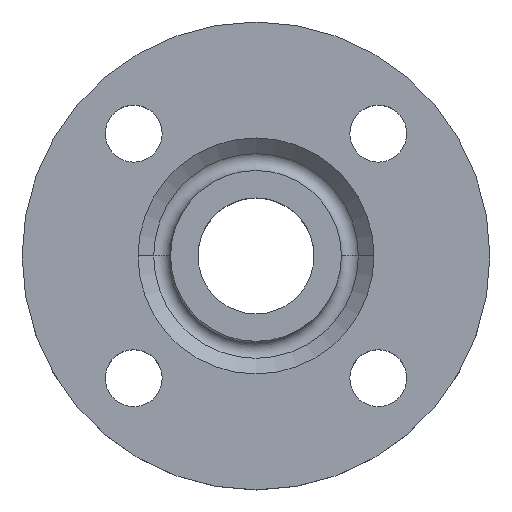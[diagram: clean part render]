
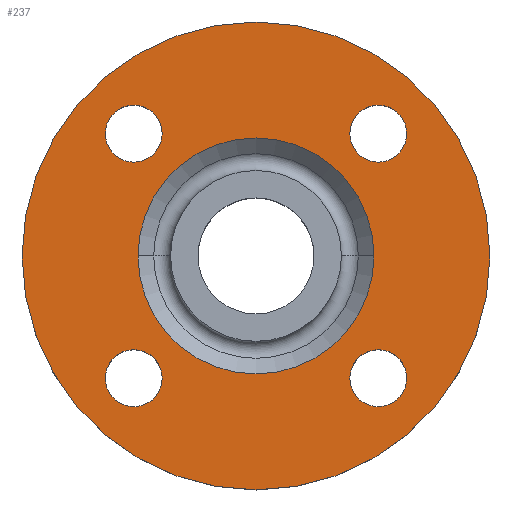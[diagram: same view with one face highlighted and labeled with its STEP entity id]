
A CAD part, top view. The second image highlights one B-rep face of the part: STEP entity #237.
In plain terms, the highlighted planar face has unit normal (0, 0, 1).
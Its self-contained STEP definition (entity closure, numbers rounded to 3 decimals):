
#1 = DIRECTION ( 'NONE',  ( 0., 0., -1. ) ) ;
#2 = DIRECTION ( 'NONE',  ( 1., 0., 0. ) ) ;
#4 = DIRECTION ( 'NONE',  ( 0., 0., -1. ) ) ;
#5 = DIRECTION ( 'NONE',  ( 1., 0., 0. ) ) ;
#6 = CARTESIAN_POINT ( 'NONE',  ( 30.052, 30.052, -2. ) ) ;
#10 = CARTESIAN_POINT ( 'NONE',  ( -30.052, 30.052, -2. ) ) ;
#15 = DIRECTION ( 'NONE',  ( -1., 0., 0. ) ) ;
#16 = EDGE_CURVE ( 'NONE', #605, #704, #350, .T. ) ;
#17 = DIRECTION ( 'NONE',  ( 0., 0., -1. ) ) ;
#24 = CIRCLE ( 'NONE', #138, 7. ) ;
#25 = CARTESIAN_POINT ( 'NONE',  ( 0., 0., -2. ) ) ;
#83 = DIRECTION ( 'NONE',  ( -1., 0., 0. ) ) ;
#84 = DIRECTION ( 'NONE',  ( 0., 0., -1. ) ) ;
#86 = CARTESIAN_POINT ( 'NONE',  ( 0., 0., -2. ) ) ;
#110 = CARTESIAN_POINT ( 'NONE',  ( -30.052, 30.052, -2. ) ) ;
#111 = DIRECTION ( 'NONE',  ( 0., 0., -1. ) ) ;
#112 = DIRECTION ( 'NONE',  ( 1., 0., 0. ) ) ;
#133 = AXIS2_PLACEMENT_3D ( 'NONE', #889, #891, #892 ) ;
#138 = AXIS2_PLACEMENT_3D ( 'NONE', #522, #205, #166 ) ;
#140 = EDGE_CURVE ( 'NONE', #713, #809, #220, .T. ) ;
#142 = CIRCLE ( 'NONE', #133, 29. ) ;
#143 = CARTESIAN_POINT ( 'NONE',  ( 57.5, 0., -2. ) ) ;
#146 = AXIS2_PLACEMENT_3D ( 'NONE', #878, #879, #880 ) ;
#160 = EDGE_CURVE ( 'NONE', #825, #567, #142, .T. ) ;
#161 = CIRCLE ( 'NONE', #199, 29. ) ;
#166 = DIRECTION ( 'NONE',  ( 1., 0., 0. ) ) ;
#175 = AXIS2_PLACEMENT_3D ( 'NONE', #917, #918, #919 ) ;
#182 = AXIS2_PLACEMENT_3D ( 'NONE', #905, #906, #907 ) ;
#197 = CIRCLE ( 'NONE', #182, 7. ) ;
#199 = AXIS2_PLACEMENT_3D ( 'NONE', #25, #17, #15 ) ;
#203 = CARTESIAN_POINT ( 'NONE',  ( -23.052, -30.052, -2. ) ) ;
#205 = DIRECTION ( 'NONE',  ( 0., 0., -1. ) ) ;
#209 = EDGE_CURVE ( 'NONE', #809, #713, #400, .T. ) ;
#220 = CIRCLE ( 'NONE', #146, 7. ) ;
#223 = EDGE_CURVE ( 'NONE', #804, #821, #197, .T. ) ;
#237 = ADVANCED_FACE ( 'NONE', ( #908, #909, #911, #913, #914, #915 ), #916, .T. ) ;
#252 = CIRCLE ( 'NONE', #253, 7. ) ;
#253 = AXIS2_PLACEMENT_3D ( 'NONE', #10, #4, #5 ) ;
#268 = CIRCLE ( 'NONE', #270, 7. ) ;
#270 = AXIS2_PLACEMENT_3D ( 'NONE', #6, #1, #2 ) ;
#316 = CIRCLE ( 'NONE', #391, 7. ) ;
#334 = AXIS2_PLACEMENT_3D ( 'NONE', #896, #897, #898 ) ;
#342 = EDGE_CURVE ( 'NONE', #823, #560, #356, .T. ) ;
#345 = AXIS2_PLACEMENT_3D ( 'NONE', #827, #829, #830 ) ;
#350 = CIRCLE ( 'NONE', #345, 57.5 ) ;
#352 = AXIS2_PLACEMENT_3D ( 'NONE', #475, #482, #484 ) ;
#356 = CIRCLE ( 'NONE', #352, 7. ) ;
#370 = CARTESIAN_POINT ( 'NONE',  ( -37.052, 30.052, -2. ) ) ;
#371 = AXIS2_PLACEMENT_3D ( 'NONE', #86, #84, #83 ) ;
#379 = CIRCLE ( 'NONE', #371, 57.5 ) ;
#387 = CARTESIAN_POINT ( 'NONE',  ( -37.052, -30.052, -2. ) ) ;
#391 = AXIS2_PLACEMENT_3D ( 'NONE', #110, #111, #112 ) ;
#400 = CIRCLE ( 'NONE', #334, 7. ) ;
#425 = EDGE_CURVE ( 'NONE', #821, #804, #24, .T. ) ;
#435 = EDGE_CURVE ( 'NONE', #799, #702, #316, .T. ) ;
#470 = EDGE_CURVE ( 'NONE', #704, #605, #379, .T. ) ;
#475 = CARTESIAN_POINT ( 'NONE',  ( 30.052, 30.052, -2. ) ) ;
#482 = DIRECTION ( 'NONE',  ( 0., 0., -1. ) ) ;
#484 = DIRECTION ( 'NONE',  ( 1., 0., 0. ) ) ;
#522 = CARTESIAN_POINT ( 'NONE',  ( -30.052, -30.052, -2. ) ) ;
#534 = CARTESIAN_POINT ( 'NONE',  ( -29., 0., -2. ) ) ;
#546 = CARTESIAN_POINT ( 'NONE',  ( -57.5, 0., -2. ) ) ;
#547 = EDGE_CURVE ( 'NONE', #567, #825, #161, .T. ) ;
#549 = EDGE_CURVE ( 'NONE', #702, #799, #252, .T. ) ;
#552 = EDGE_CURVE ( 'NONE', #560, #823, #268, .T. ) ;
#560 = VERTEX_POINT ( 'NONE', #776 ) ;
#567 = VERTEX_POINT ( 'NONE', #728 ) ;
#583 = CARTESIAN_POINT ( 'NONE',  ( -23.052, 30.052, -2. ) ) ;
#605 = VERTEX_POINT ( 'NONE', #546 ) ;
#633 = CARTESIAN_POINT ( 'NONE',  ( 23.052, -30.052, -2. ) ) ;
#638 = EDGE_LOOP ( 'NONE', ( #676, #677 ) ) ;
#658 = CARTESIAN_POINT ( 'NONE',  ( 37.052, 30.052, -2. ) ) ;
#671 = ORIENTED_EDGE ( 'NONE', *, *, #209, .T. ) ;
#672 = ORIENTED_EDGE ( 'NONE', *, *, #140, .T. ) ;
#673 = ORIENTED_EDGE ( 'NONE', *, *, #223, .T. ) ;
#675 = ORIENTED_EDGE ( 'NONE', *, *, #425, .T. ) ;
#676 = ORIENTED_EDGE ( 'NONE', *, *, #435, .T. ) ;
#677 = ORIENTED_EDGE ( 'NONE', *, *, #549, .T. ) ;
#678 = ORIENTED_EDGE ( 'NONE', *, *, #342, .T. ) ;
#679 = ORIENTED_EDGE ( 'NONE', *, *, #552, .T. ) ;
#680 = ORIENTED_EDGE ( 'NONE', *, *, #547, .T. ) ;
#681 = ORIENTED_EDGE ( 'NONE', *, *, #160, .T. ) ;
#683 = ORIENTED_EDGE ( 'NONE', *, *, #470, .F. ) ;
#684 = ORIENTED_EDGE ( 'NONE', *, *, #16, .F. ) ;
#702 = VERTEX_POINT ( 'NONE', #370 ) ;
#704 = VERTEX_POINT ( 'NONE', #143 ) ;
#705 = EDGE_LOOP ( 'NONE', ( #671, #672 ) ) ;
#713 = VERTEX_POINT ( 'NONE', #633 ) ;
#726 = EDGE_LOOP ( 'NONE', ( #673, #675 ) ) ;
#728 = CARTESIAN_POINT ( 'NONE',  ( 29., 0., -2. ) ) ;
#742 = EDGE_LOOP ( 'NONE', ( #678, #679 ) ) ;
#776 = CARTESIAN_POINT ( 'NONE',  ( 23.052, 30.052, -2. ) ) ;
#799 = VERTEX_POINT ( 'NONE', #583 ) ;
#804 = VERTEX_POINT ( 'NONE', #203 ) ;
#807 = EDGE_LOOP ( 'NONE', ( #683, #684 ) ) ;
#809 = VERTEX_POINT ( 'NONE', #810 ) ;
#810 = CARTESIAN_POINT ( 'NONE',  ( 37.052, -30.052, -2. ) ) ;
#812 = EDGE_LOOP ( 'NONE', ( #680, #681 ) ) ;
#821 = VERTEX_POINT ( 'NONE', #387 ) ;
#823 = VERTEX_POINT ( 'NONE', #658 ) ;
#825 = VERTEX_POINT ( 'NONE', #534 ) ;
#827 = CARTESIAN_POINT ( 'NONE',  ( 0., 0., -2. ) ) ;
#829 = DIRECTION ( 'NONE',  ( 0., 0., -1. ) ) ;
#830 = DIRECTION ( 'NONE',  ( -1., 0., 0. ) ) ;
#878 = CARTESIAN_POINT ( 'NONE',  ( 30.052, -30.052, -2. ) ) ;
#879 = DIRECTION ( 'NONE',  ( 0., 0., -1. ) ) ;
#880 = DIRECTION ( 'NONE',  ( 1., 0., 0. ) ) ;
#889 = CARTESIAN_POINT ( 'NONE',  ( 0., 0., -2. ) ) ;
#891 = DIRECTION ( 'NONE',  ( 0., 0., -1. ) ) ;
#892 = DIRECTION ( 'NONE',  ( -1., 0., 0. ) ) ;
#896 = CARTESIAN_POINT ( 'NONE',  ( 30.052, -30.052, -2. ) ) ;
#897 = DIRECTION ( 'NONE',  ( 0., 0., -1. ) ) ;
#898 = DIRECTION ( 'NONE',  ( 1., 0., 0. ) ) ;
#905 = CARTESIAN_POINT ( 'NONE',  ( -30.052, -30.052, -2. ) ) ;
#906 = DIRECTION ( 'NONE',  ( 0., 0., -1. ) ) ;
#907 = DIRECTION ( 'NONE',  ( 1., 0., 0. ) ) ;
#908 = FACE_BOUND ( 'NONE', #705, .T. ) ;
#909 = FACE_BOUND ( 'NONE', #726, .T. ) ;
#911 = FACE_BOUND ( 'NONE', #638, .T. ) ;
#913 = FACE_BOUND ( 'NONE', #742, .T. ) ;
#914 = FACE_BOUND ( 'NONE', #812, .T. ) ;
#915 = FACE_OUTER_BOUND ( 'NONE', #807, .T. ) ;
#916 = PLANE ( 'NONE',  #175 ) ;
#917 = CARTESIAN_POINT ( 'NONE',  ( 57.5, 0., -2. ) ) ;
#918 = DIRECTION ( 'NONE',  ( 0., 0., 1. ) ) ;
#919 = DIRECTION ( 'NONE',  ( 1., 0., 0. ) ) ;
